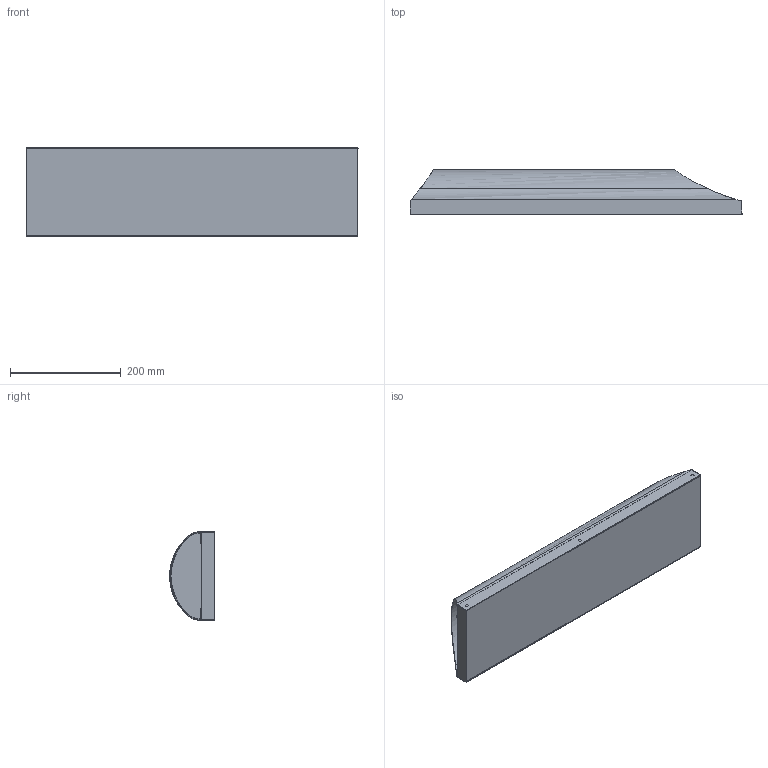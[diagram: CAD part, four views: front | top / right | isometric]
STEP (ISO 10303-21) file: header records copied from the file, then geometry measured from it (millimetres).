
FILE_DESCRIPTION(/* description */ (''),/* implementation_level */ '2;1');
FILE_NAME(/* name */ 'SEM000~2',/* time_stamp */ '2020-09-17T17:53:33+02:00',/* author */ (''),/* organization */ (''),/* preprocessor_version */ 'ST-DEVELOPER v16.5',/* originating_system */ '',/* authorisation */ '');
FILE_SCHEMA (('AUTOMOTIVE_DESIGN'));
Length unit declared in the file: millimetre
Products named in the file (2): Document; MET.005440
Assembly tree (1 placements, depth 2):
  Document
    MET.005440
Bounding box: 600 x 80.92 x 159.86 mm (x, y, z)
Volume: 286184.3 mm3; surface area: 607632.6 mm2
Topology: 5 solids, 6 shells, 212 faces, 536 edges, 352 vertices
Faces by surface type: plane 110, bspline 102
Entity records: 8941 total; most frequent: CARTESIAN_POINT 5544, ORIENTED_EDGE 1060, EDGE_CURVE 536, VERTEX_POINT 352, B_SPLINE_CURVE_WITH_KNOTS 320, EDGE_LOOP 233, ADVANCED_FACE 212, FACE_OUTER_BOUND 212
